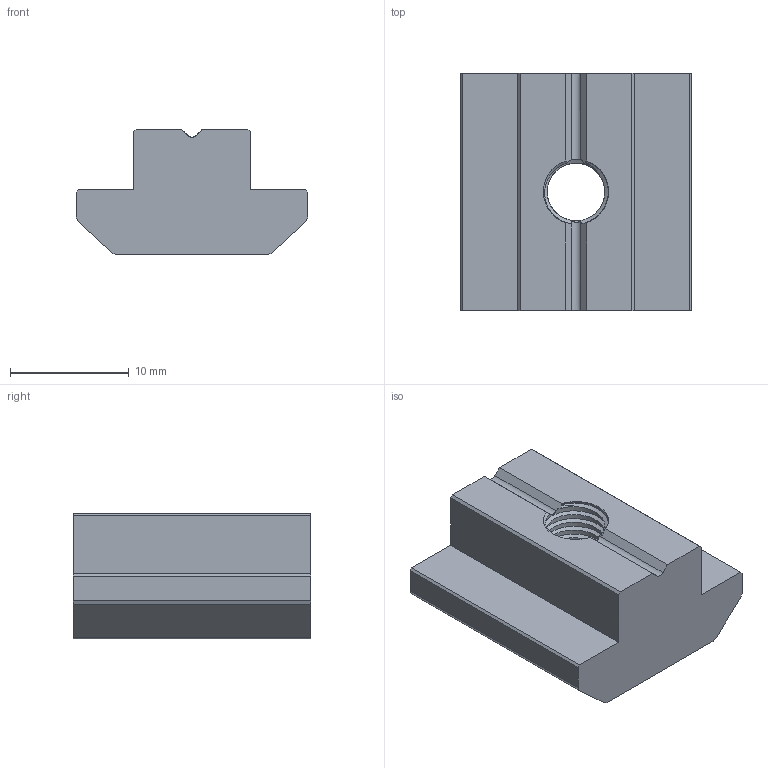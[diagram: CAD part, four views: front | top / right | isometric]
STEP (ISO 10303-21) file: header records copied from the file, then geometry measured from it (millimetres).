
FILE_DESCRIPTION(('FreeCAD Model'),'2;1');
FILE_NAME('Open CASCADE Shape Model','2021-05-04T11:48:03',('Author'),( ''),'Open CASCADE STEP processor 7.5','FreeCAD','Unknown');
FILE_SCHEMA(('AUTOMOTIVE_DESIGN { 1 0 10303 214 1 1 1 1 }'));
Length unit declared in the file: millimetre
Products named in the file (1): 1
Bounding box: 19.5 x 20 x 10.6 mm (x, y, z)
Volume: 2702.5 mm3; surface area: 1615.4 mm2
Topology: 1 solids, 1 shells, 38 faces, 110 edges, 73 vertices
Faces by surface type: plane 25, cone 5, cylinder 4, bspline 4
Entity records: 6364 total; most frequent: CARTESIAN_POINT 4286, DIRECTION 337, LINE 228, VECTOR 228, ORIENTED_EDGE 220, PCURVE 220, DEFINITIONAL_REPRESENTATION 220, EDGE_CURVE 110
